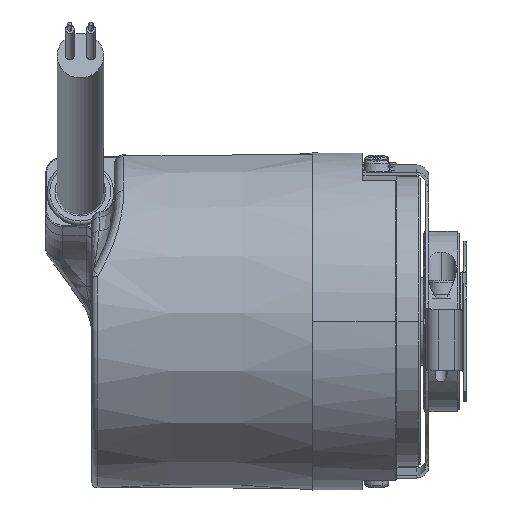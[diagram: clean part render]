
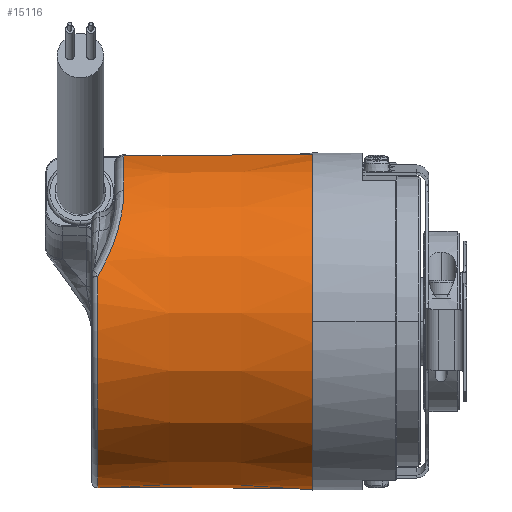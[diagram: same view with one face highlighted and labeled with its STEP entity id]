
A CAD part, top view. The second image highlights one B-rep face of the part: STEP entity #15116.
In plain terms, the highlighted conical face has half-angle 0.5 degrees and reference radius 29 mm.
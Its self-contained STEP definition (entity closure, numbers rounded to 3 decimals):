
#333 = EDGE_CURVE ( 'NONE', #474, #3948, #17004, .T. ) ;
#360 = CARTESIAN_POINT ( 'NONE',  ( -25.013, 28.487, 3.623 ) ) ;
#474 = VERTEX_POINT ( 'NONE', #15553 ) ;
#720 = CARTESIAN_POINT ( 'NONE',  ( -25.716, 16.881, 23.236 ) ) ;
#1134 = ORIENTED_EDGE ( 'NONE', *, *, #13780, .F. ) ;
#1204 = CONICAL_SURFACE ( 'NONE', #7591, 29., 0.009 ) ;
#1795 = DIRECTION ( 'NONE',  ( 1., 0., 0. ) ) ;
#2137 = CARTESIAN_POINT ( 'NONE',  ( -26.423, 14.352, 24.904 ) ) ;
#2638 = DIRECTION ( 'NONE',  ( 1., 0.009, 0.001 ) ) ;
#3244 = EDGE_CURVE ( 'NONE', #3948, #14206, #4238, .T. ) ;
#3447 = CARTESIAN_POINT ( 'NONE',  ( -25.013, 21.518, 19.082 ) ) ;
#3505 = ORIENTED_EDGE ( 'NONE', *, *, #333, .T. ) ;
#3577 = CARTESIAN_POINT ( 'NONE',  ( -27.755, 11.043, 26.492 ) ) ;
#3668 = VECTOR ( 'NONE', #2638, 1000. ) ;
#3941 = VERTEX_POINT ( 'NONE', #17760 ) ;
#3948 = VERTEX_POINT ( 'NONE', #16522 ) ;
#4146 = AXIS2_PLACEMENT_3D ( 'NONE', #7529, #17376, #8941 ) ;
#4171 = CARTESIAN_POINT ( 'NONE',  ( -29.509, 7.703, 27.623 ) ) ;
#4238 = CIRCLE ( 'NONE', #6603, 29. ) ;
#4285 = EDGE_CURVE ( 'NONE', #12705, #474, #12178, .T. ) ;
#4668 = CARTESIAN_POINT ( 'NONE',  ( 7.5, 0., 0. ) ) ;
#4951 = CARTESIAN_POINT ( 'NONE',  ( -28.753, 9.031, 27.234 ) ) ;
#5835 = CARTESIAN_POINT ( 'NONE',  ( 7.5, 28.768, 3.659 ) ) ;
#6055 = DIRECTION ( 'NONE',  ( 0., 0.992, 0.126 ) ) ;
#6240 = CARTESIAN_POINT ( 'NONE',  ( -25.013, 22.499, 17.845 ) ) ;
#6296 = CARTESIAN_POINT ( 'NONE',  ( -25.087, 20.447, 20.223 ) ) ;
#6362 = CARTESIAN_POINT ( 'NONE',  ( -29.509, 7.703, 27.623 ) ) ;
#6603 = AXIS2_PLACEMENT_3D ( 'NONE', #4668, #14522, #6055 ) ;
#6724 = FACE_OUTER_BOUND ( 'NONE', #11632, .T. ) ;
#7529 = CARTESIAN_POINT ( 'NONE',  ( -29.509, 0., 0. ) ) ;
#7591 = AXIS2_PLACEMENT_3D ( 'NONE', #11399, #12820, #10078 ) ;
#7728 = CARTESIAN_POINT ( 'NONE',  ( -25.346, 18.707, 21.787 ) ) ;
#8317 = DIRECTION ( 'NONE',  ( 1., -0.009, -0.001 ) ) ;
#8324 = ORIENTED_EDGE ( 'NONE', *, *, #4285, .T. ) ;
#8941 = DIRECTION ( 'NONE',  ( 0., 0.992, 0.126 ) ) ;
#9141 = CARTESIAN_POINT ( 'NONE',  ( -25.516, 17.802, 22.53 ) ) ;
#10078 = DIRECTION ( 'NONE',  ( 0., -0.992, -0.126 ) ) ;
#10257 = CARTESIAN_POINT ( 'NONE',  ( -25.013, 0., 0. ) ) ;
#10583 = CARTESIAN_POINT ( 'NONE',  ( -25.874, 16.255, 23.675 ) ) ;
#11305 = ORIENTED_EDGE ( 'NONE', *, *, #11948, .T. ) ;
#11399 = CARTESIAN_POINT ( 'NONE',  ( 7.5, 0., 0. ) ) ;
#11622 = DIRECTION ( 'NONE',  ( 0., -0.992, -0.126 ) ) ;
#11632 = EDGE_LOOP ( 'NONE', ( #1134, #17837, #11305, #8324, #3505, #17153 ) ) ;
#11948 = EDGE_CURVE ( 'NONE', #3941, #12705, #14969, .T. ) ;
#11958 = CARTESIAN_POINT ( 'NONE',  ( -26.889, 13.045, 25.605 ) ) ;
#12178 = CIRCLE ( 'NONE', #4146, 28.677 ) ;
#12705 = VERTEX_POINT ( 'NONE', #4171 ) ;
#12820 = DIRECTION ( 'NONE',  ( 1., 0., 0. ) ) ;
#12869 = VERTEX_POINT ( 'NONE', #360 ) ;
#12913 = CIRCLE ( 'NONE', #15992, 28.716 ) ;
#13285 = VECTOR ( 'NONE', #8317, 1000. ) ;
#13403 = CARTESIAN_POINT ( 'NONE',  ( -28.072, 10.368, 26.76 ) ) ;
#13780 = EDGE_CURVE ( 'NONE', #12869, #14206, #15317, .T. ) ;
#14025 = CARTESIAN_POINT ( 'NONE',  ( 7.5, -28.768, -3.659 ) ) ;
#14206 = VERTEX_POINT ( 'NONE', #5835 ) ;
#14522 = DIRECTION ( 'NONE',  ( -1., 0., 0. ) ) ;
#14830 = CARTESIAN_POINT ( 'NONE',  ( -29.119, 8.365, 27.442 ) ) ;
#14969 = B_SPLINE_CURVE_WITH_KNOTS ( 'NONE', 3,
 ( #6240, #3447, #6296, #16171, #7728, #17584, #9141, #720, #10583, #2137, #11958, #3577, #13403, #4951, #14830, #6362 ),
 .UNSPECIFIED., .F., .F.,
 ( 4, 2, 2, 2, 2, 2, 2, 4 ),
 ( 0., 0.005, 0.006, 0.007, 0.009, 0.014, 0.016, 0.019 ),
 .UNSPECIFIED. ) ;
#15116 = ADVANCED_FACE ( 'NONE', ( #6724 ), #1204, .T. ) ;
#15317 = LINE ( 'NONE', #18072, #3668 ) ;
#15553 = CARTESIAN_POINT ( 'NONE',  ( -29.509, -28.448, -3.618 ) ) ;
#15724 = EDGE_CURVE ( 'NONE', #12869, #3941, #12913, .T. ) ;
#15992 = AXIS2_PLACEMENT_3D ( 'NONE', #10257, #1795, #11622 ) ;
#16171 = CARTESIAN_POINT ( 'NONE',  ( -25.298, 19.002, 21.531 ) ) ;
#16522 = CARTESIAN_POINT ( 'NONE',  ( 7.5, -28.768, -3.659 ) ) ;
#17004 = LINE ( 'NONE', #14025, #13285 ) ;
#17153 = ORIENTED_EDGE ( 'NONE', *, *, #3244, .T. ) ;
#17376 = DIRECTION ( 'NONE',  ( 1., 0., 0. ) ) ;
#17584 = CARTESIAN_POINT ( 'NONE',  ( -25.455, 18.108, 22.286 ) ) ;
#17760 = CARTESIAN_POINT ( 'NONE',  ( -25.013, 22.499, 17.845 ) ) ;
#17837 = ORIENTED_EDGE ( 'NONE', *, *, #15724, .T. ) ;
#18072 = CARTESIAN_POINT ( 'NONE',  ( 7.5, 28.768, 3.659 ) ) ;
